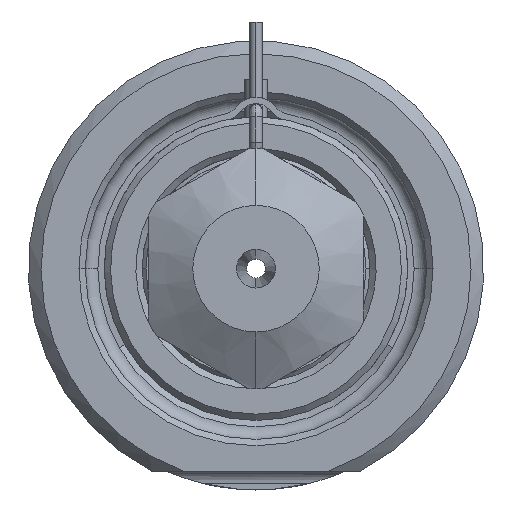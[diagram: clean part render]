
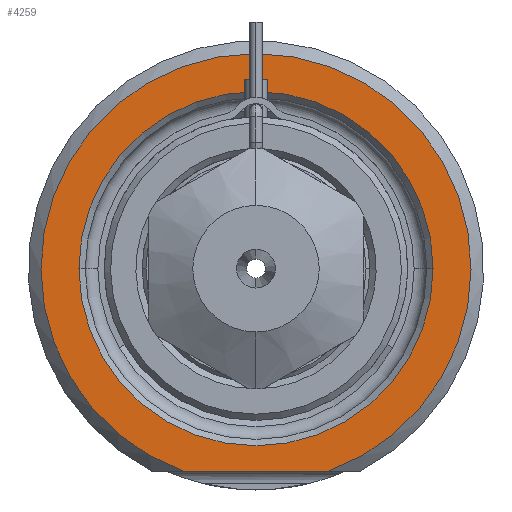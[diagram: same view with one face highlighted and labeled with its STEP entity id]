
A CAD part, front view. The second image highlights one B-rep face of the part: STEP entity #4259.
In plain terms, the highlighted planar face has unit normal (0, -1, 0).
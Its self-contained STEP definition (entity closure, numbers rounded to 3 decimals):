
#1344=CARTESIAN_POINT('',(0.,0.,0.));
#1345=DIRECTION('',(0.,-1.,0.));
#1346=DIRECTION('',(0.338,0.,-0.941));
#1347=AXIS2_PLACEMENT_3D('',#1344,#1345,#1346);
#1368=DIRECTION('',(1.,0.,0.));
#1369=VECTOR('',#1368,11.489);
#1370=CARTESIAN_POINT('',(-5.745,0.,-16.));
#1371=LINE('',#1370,#1369);
#1372=CARTESIAN_POINT('',(0.,0.,0.));
#1373=DIRECTION('',(0.,1.,0.));
#1374=DIRECTION('',(-1.,0.,0.));
#1375=AXIS2_PLACEMENT_3D('',#1372,#1373,#1374);
#1377=CARTESIAN_POINT('',(0.,0.,0.));
#1378=DIRECTION('',(0.,1.,0.));
#1379=DIRECTION('',(1.,0.,0.));
#1380=AXIS2_PLACEMENT_3D('',#1377,#1378,#1379);
#2263=CARTESIAN_POINT('',(-14.,0.,0.));
#2264=CARTESIAN_POINT('',(14.,0.,0.));
#2265=VERTEX_POINT('',#2263);
#2266=VERTEX_POINT('',#2264);
#2313=CARTESIAN_POINT('',(-5.745,0.,-16.));
#2314=CARTESIAN_POINT('',(5.745,0.,-16.));
#2315=VERTEX_POINT('',#2313);
#2316=VERTEX_POINT('',#2314);
#4244=CARTESIAN_POINT('',(0.,0.,0.));
#4245=DIRECTION('',(0.,-1.,0.));
#4246=DIRECTION('',(1.,0.,0.));
#4247=AXIS2_PLACEMENT_3D('',#4244,#4245,#4246);
#4248=PLANE('',#4247);
#4249=ORIENTED_EDGE('',*,*,#4176,.F.);
#4250=ORIENTED_EDGE('',*,*,#4236,.F.);
#4251=EDGE_LOOP('',(#4249,#4250));
#4252=FACE_OUTER_BOUND('',#4251,.F.);
#4254=ORIENTED_EDGE('',*,*,#4253,.F.);
#4256=ORIENTED_EDGE('',*,*,#4255,.F.);
#4257=EDGE_LOOP('',(#4254,#4256));
#4258=FACE_BOUND('',#4257,.F.);
#4259=ADVANCED_FACE('',(#4252,#4258),#4248,.T.);
#1348=CIRCLE('',#1347,17.);
#1376=CIRCLE('',#1375,14.);
#1381=CIRCLE('',#1380,14.);
#4176=EDGE_CURVE('',#2315,#2316,#1371,.T.);
#4236=EDGE_CURVE('',#2316,#2315,#1348,.T.);
#4253=EDGE_CURVE('',#2265,#2266,#1376,.T.);
#4255=EDGE_CURVE('',#2266,#2265,#1381,.T.);
